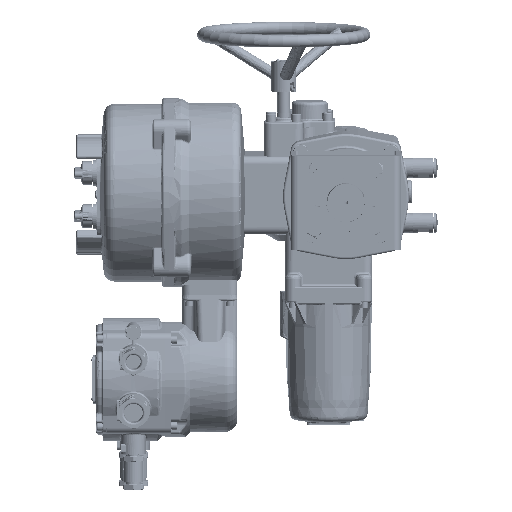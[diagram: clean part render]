
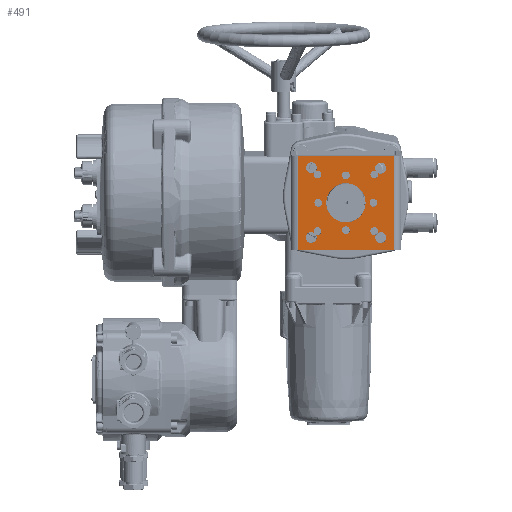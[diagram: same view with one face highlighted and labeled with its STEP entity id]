
A CAD part, front view. The second image highlights one B-rep face of the part: STEP entity #491.
In plain terms, the highlighted planar face has unit normal (0, -0.997, -0.08).
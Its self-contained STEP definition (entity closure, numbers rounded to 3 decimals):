
#491=ADVANCED_FACE('',(#4423,#4425,#4427,#4429,#4431,#4433,#4435,#4437,#4439,#4441),
#4443,.F.);
#4423=FACE_BOUND('',#4424,.T.);
#4424=EDGE_LOOP('',(#151500,#151501,#151502,#151503));
#4425=FACE_BOUND('',#4426,.T.);
#4426=EDGE_LOOP('',(#151504,#151505));
#4427=FACE_BOUND('',#4428,.T.);
#4428=EDGE_LOOP('',(#151506,#151507));
#4429=FACE_BOUND('',#4430,.T.);
#4430=EDGE_LOOP('',(#151508,#151509));
#4431=FACE_BOUND('',#4432,.T.);
#4432=EDGE_LOOP('',(#151510,#151511));
#4433=FACE_BOUND('',#4434,.T.);
#4434=EDGE_LOOP('',(#151512));
#4435=FACE_BOUND('',#4436,.T.);
#4436=EDGE_LOOP('',(#151513));
#4437=FACE_BOUND('',#4438,.T.);
#4438=EDGE_LOOP('',(#151514));
#4439=FACE_BOUND('',#4440,.T.);
#4440=EDGE_LOOP('',(#151515));
#4441=FACE_BOUND('',#4442,.T.);
#4442=EDGE_LOOP('',(#151516));
#4443=PLANE('',#4444);
#4444=AXIS2_PLACEMENT_3D('',#4445,#4446,#4447);
#4445=CARTESIAN_POINT('',(2.932,-104.832,-9.244));
#4446=DIRECTION('',(0.,0.997,0.08));
#4447=DIRECTION('',(0.,0.08,-0.997));
#151500=ORIENTED_EDGE('',*,*,#437671,.F.);
#151501=ORIENTED_EDGE('',*,*,#437608,.F.);
#151502=ORIENTED_EDGE('',*,*,#437672,.F.);
#151503=ORIENTED_EDGE('',*,*,#437593,.F.);
#151504=ORIENTED_EDGE('',*,*,#437673,.T.);
#151505=ORIENTED_EDGE('',*,*,#437674,.T.);
#151506=ORIENTED_EDGE('',*,*,#437675,.T.);
#151507=ORIENTED_EDGE('',*,*,#437676,.T.);
#151508=ORIENTED_EDGE('',*,*,#437677,.T.);
#151509=ORIENTED_EDGE('',*,*,#437678,.T.);
#151510=ORIENTED_EDGE('',*,*,#437679,.T.);
#151511=ORIENTED_EDGE('',*,*,#437680,.T.);
#151512=ORIENTED_EDGE('',*,*,#437681,.T.);
#151513=ORIENTED_EDGE('',*,*,#437682,.T.);
#151514=ORIENTED_EDGE('',*,*,#437683,.T.);
#151515=ORIENTED_EDGE('',*,*,#437684,.T.);
#151516=ORIENTED_EDGE('',*,*,#437685,.T.);
#437593=EDGE_CURVE('',#516842,#516844,#516845,.T.);
#437608=EDGE_CURVE('',#516869,#516871,#516872,.T.);
#437671=EDGE_CURVE('',#516871,#516842,#516972,.T.);
#437672=EDGE_CURVE('',#516844,#516869,#516973,.T.);
#437673=EDGE_CURVE('',#516974,#516975,#516976,.F.);
#437674=EDGE_CURVE('',#516975,#516974,#516977,.F.);
#437675=EDGE_CURVE('',#516978,#516979,#516980,.F.);
#437676=EDGE_CURVE('',#516979,#516978,#516981,.F.);
#437677=EDGE_CURVE('',#516982,#516983,#516984,.F.);
#437678=EDGE_CURVE('',#516983,#516982,#516985,.F.);
#437679=EDGE_CURVE('',#516986,#516987,#516988,.F.);
#437680=EDGE_CURVE('',#516987,#516986,#516989,.F.);
#437681=EDGE_CURVE('',#516990,#516990,#516991,.F.);
#437682=EDGE_CURVE('',#516992,#516992,#516993,.F.);
#437683=EDGE_CURVE('',#516994,#516994,#516995,.F.);
#437684=EDGE_CURVE('',#516996,#516996,#516997,.F.);
#437685=EDGE_CURVE('',#516998,#516998,#516999,.T.);
#516842=VERTEX_POINT('',#558293);
#516844=VERTEX_POINT('',#558298);
#516845=LINE('',#558299,#558300);
#516869=VERTEX_POINT('',#558358);
#516871=VERTEX_POINT('',#558363);
#516872=LINE('',#558364,#558365);
#516972=LINE('',#559373,#559374);
#516973=LINE('',#559376,#559377);
#516974=VERTEX_POINT('',#559379);
#516975=VERTEX_POINT('',#559380);
#516976=CIRCLE('',#559381,7.);
#516977=CIRCLE('',#559385,5.);
#516978=VERTEX_POINT('',#559389);
#516979=VERTEX_POINT('',#559390);
#516980=CIRCLE('',#559391,7.);
#516981=CIRCLE('',#559395,5.);
#516982=VERTEX_POINT('',#559399);
#516983=VERTEX_POINT('',#559400);
#516984=CIRCLE('',#559401,5.);
#516985=CIRCLE('',#559405,7.);
#516986=VERTEX_POINT('',#559409);
#516987=VERTEX_POINT('',#559410);
#516988=CIRCLE('',#559411,5.);
#516989=CIRCLE('',#559415,6.879);
#516990=VERTEX_POINT('',#559419);
#516991=CIRCLE('',#559420,5.);
#516992=VERTEX_POINT('',#559424);
#516993=CIRCLE('',#559425,5.);
#516994=VERTEX_POINT('',#559429);
#516995=CIRCLE('',#559430,5.);
#516996=VERTEX_POINT('',#559434);
#516997=CIRCLE('',#559435,5.);
#516998=VERTEX_POINT('',#559439);
#516999=CIRCLE('',#559440,25.);
#558293=CARTESIAN_POINT('',(-57.16,-109.94,54.714));
#558298=CARTESIAN_POINT('',(64.84,-109.94,54.714));
#558299=CARTESIAN_POINT('',(-57.16,-109.94,54.714));
#558300=VECTOR('',#558301,1.);
#558301=DIRECTION('',(1.,0.,0.));
#558358=CARTESIAN_POINT('',(64.84,-100.387,-64.905));
#558363=CARTESIAN_POINT('',(-57.16,-100.387,-64.905));
#558364=CARTESIAN_POINT('',(64.84,-100.387,-64.905));
#558365=VECTOR('',#558366,1.);
#558366=DIRECTION('',(-1.,0.,0.));
#559373=CARTESIAN_POINT('',(-57.16,-100.387,-64.905));
#559374=VECTOR('',#559375,1.);
#559375=DIRECTION('',(0.,-0.08,0.997));
#559376=CARTESIAN_POINT('',(64.84,-109.94,54.714));
#559377=VECTOR('',#559378,1.);
#559378=DIRECTION('',(0.,0.08,-0.997));
#559379=CARTESIAN_POINT('',(44.328,-102.111,-43.319));
#559380=CARTESIAN_POINT('',(42.095,-101.933,-45.545));
#559381=AXIS2_PLACEMENT_3D('',#559382,#559383,#559384);
#559382=CARTESIAN_POINT('',(48.034,-101.638,-49.239));
#559383=DIRECTION('',(0.,-0.997,-0.08));
#559384=DIRECTION('',(-0.848,-0.042,0.528));
#559385=AXIS2_PLACEMENT_3D('',#559386,#559387,#559388);
#559386=CARTESIAN_POINT('',(39.857,-102.289,-41.088));
#559387=DIRECTION('',(0.,-0.997,-0.08));
#559388=DIRECTION('',(0.894,0.036,-0.446));
#559389=CARTESIAN_POINT('',(-34.416,-101.933,-45.545));
#559390=CARTESIAN_POINT('',(-36.649,-102.111,-43.319));
#559391=AXIS2_PLACEMENT_3D('',#559392,#559393,#559394);
#559392=CARTESIAN_POINT('',(-40.354,-101.638,-49.239));
#559393=DIRECTION('',(0.,-0.997,-0.08));
#559394=DIRECTION('',(0.529,-0.068,0.846));
#559395=AXIS2_PLACEMENT_3D('',#559396,#559397,#559398);
#559396=CARTESIAN_POINT('',(-32.178,-102.289,-41.088));
#559397=DIRECTION('',(0.,-0.997,-0.08));
#559398=DIRECTION('',(-0.448,0.071,-0.891));
#559399=CARTESIAN_POINT('',(44.518,-108.193,32.835));
#559400=CARTESIAN_POINT('',(41.986,-108.394,35.355));
#559401=AXIS2_PLACEMENT_3D('',#559402,#559403,#559404);
#559402=CARTESIAN_POINT('',(39.953,-108.03,30.802));
#559403=DIRECTION('',(0.,-0.997,-0.08));
#559404=DIRECTION('',(0.407,-0.073,0.911));
#559405=AXIS2_PLACEMENT_3D('',#559406,#559407,#559408);
#559406=CARTESIAN_POINT('',(48.034,-108.675,38.869));
#559407=DIRECTION('',(0.,-0.997,-0.08));
#559408=DIRECTION('',(-0.502,0.069,-0.862));
#559409=CARTESIAN_POINT('',(-34.559,-108.385,35.237));
#559410=CARTESIAN_POINT('',(-36.413,-108.253,33.594));
#559411=AXIS2_PLACEMENT_3D('',#559412,#559413,#559414);
#559412=CARTESIAN_POINT('',(-32.268,-108.031,30.808));
#559413=DIRECTION('',(0.,-0.997,-0.08));
#559414=DIRECTION('',(-0.829,-0.045,0.557));
#559415=AXIS2_PLACEMENT_3D('',#559416,#559417,#559418);
#559416=CARTESIAN_POINT('',(-39.983,-108.722,39.457));
#559417=DIRECTION('',(0.,-0.997,-0.08));
#559418=DIRECTION('',(0.788,0.049,-0.613));
#559419=CARTESIAN_POINT('',(8.75,-102.37,-40.074));
#559420=AXIS2_PLACEMENT_3D('',#559421,#559422,#559423);
#559421=CARTESIAN_POINT('',(3.75,-102.37,-40.074));
#559422=DIRECTION('',(0.,-0.997,-0.08));
#559423=DIRECTION('',(1.,0.,0.));
#559424=CARTESIAN_POINT('',(43.84,-105.156,-5.185));
#559425=AXIS2_PLACEMENT_3D('',#559426,#559427,#559428);
#559426=CARTESIAN_POINT('',(38.84,-105.156,-5.185));
#559427=DIRECTION('',(0.,-0.997,-0.08));
#559428=DIRECTION('',(1.,0.,0.));
#559429=CARTESIAN_POINT('',(8.84,-107.943,29.704));
#559430=AXIS2_PLACEMENT_3D('',#559431,#559432,#559433);
#559431=CARTESIAN_POINT('',(3.84,-107.943,29.704));
#559432=DIRECTION('',(0.,-0.997,-0.08));
#559433=DIRECTION('',(1.,0.,0.));
#559434=CARTESIAN_POINT('',(-26.16,-105.156,-5.185));
#559435=AXIS2_PLACEMENT_3D('',#559436,#559437,#559438);
#559436=CARTESIAN_POINT('',(-31.16,-105.156,-5.185));
#559437=DIRECTION('',(0.,-0.997,-0.08));
#559438=DIRECTION('',(1.,0.,0.));
#559439=CARTESIAN_POINT('',(3.84,-103.173,-30.016));
#559440=AXIS2_PLACEMENT_3D('',#559441,#559442,#559443);
#559441=CARTESIAN_POINT('',(3.84,-105.163,-5.095));
#559442=DIRECTION('',(0.,0.997,0.08));
#559443=DIRECTION('',(0.,0.08,-0.997));
